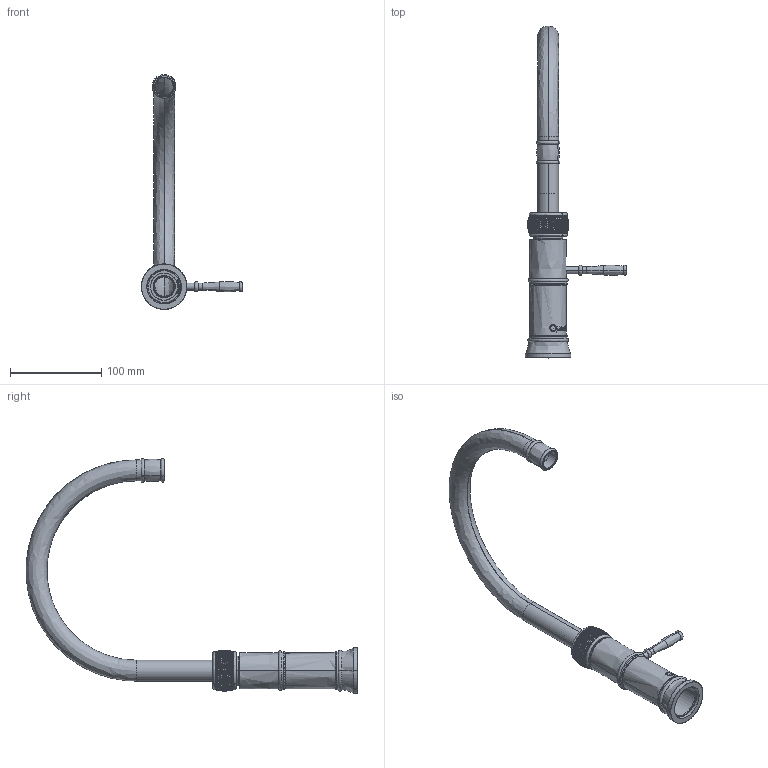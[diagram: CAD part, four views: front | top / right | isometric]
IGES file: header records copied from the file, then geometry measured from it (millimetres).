
Start section: SolidWorks IGES file using analytic representation for surfaces
Global section: file name: C:\SEPDM\Quooker_10\Projecten\PRJ_000015 - 3D Files kranen en ketels\Files IGS\Kranen\Fusion Classic Round.IGS; native system: SolidWorks 2016; preprocessor: SolidWorks 2016; author: r.peters; date: 180410.121722; units: millimetre
Bounding box: 111.19 x 364.45 x 257.99 mm (x, y, z)
Surface area: 81915.3 mm2 (no closed solid volume)
Topology: 0 solids, 0 shells, 1939 faces, 13700 edges, 13700 vertices
Faces by surface type: revolution 1606, bspline 333
